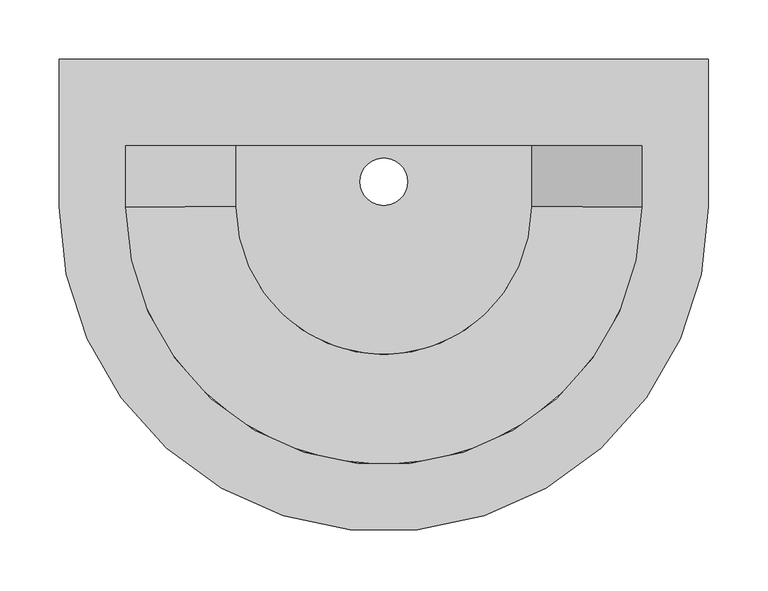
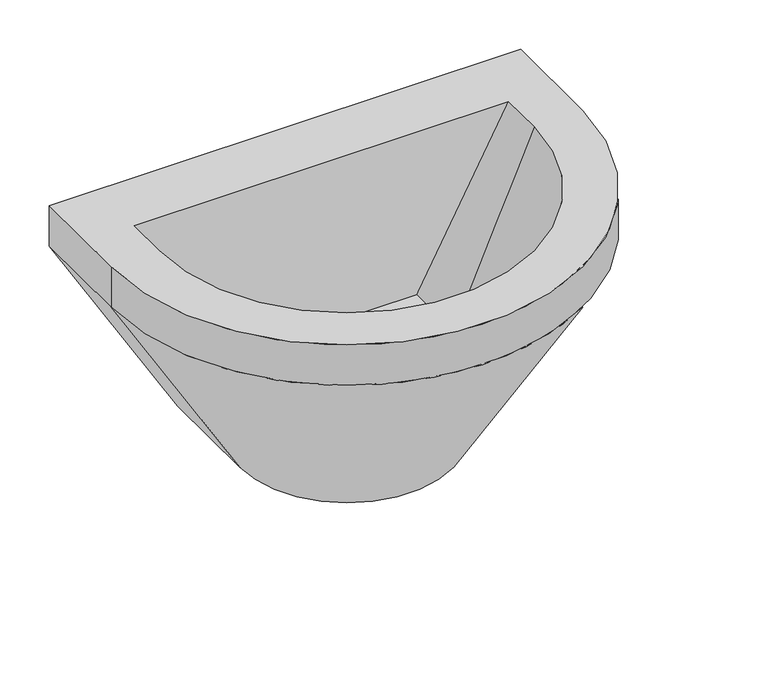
"""IFC4 building model written with IfcOpenShell, lengths in millimetres: flow terminal geometry, BIMHealth-Wash_basin_Doc_M-LOD2A-v1 : BIMHealth-Wash_basin_Doc_M-LOD2A-v1."""

from ifc_helpers import new_model, si_unit, frame, origin, place, context, project, spatial, polyline, circle_curve, source, transform, mapped, element, save
from ifc_brep_helpers import plane_surface, cylinder_surface, revolved_surface, advanced_brep


def flow_terminal_30861e1c(model_context):
    return source(origin(), model_context, "Body", "AdvancedBrep", [
        advanced_brep(
        [(550.0, -125.0, 300.0), (550.0, 0.0, 300.0), (0.0, 0.0, 300.0), (0.0, -125.0, 300.0), (493.4285972, -125.0, 300.0), (56.5714028, -125.0, 300.0), (56.5714028, -73.3571493, 300.0), (493.4285972, -73.3571493, 300.0), (550.0, -125.0, 250.0), (550.0, 0.0, 250.0), (400.0, 0.0, 0.0), (150.0, 0.0, 0.0), (0.0, 0.0, 250.0), (0.0, -125.0, 250.0), (150.0, -125.0, 80.3895226), (400.0, -125.0, 80.3895226), (400.0, -50.0, 80.3895226), (150.0, -50.0, 80.3895226), (295.0, -103.75, 80.3895226), (255.0, -103.75, 80.3895226), (150.0, -125.0, 0.0), (400.0, -125.0, 0.0), (255.0, -103.75, 0.0), (295.0, -103.75, 0.0)],
        [
            (0, 1),
            (1, 2),
            (2, 3),
            (3, 0, circle_curve(frame((275.0, -125.0, 300.0), z_axis=(0.0, 0.0, 1.0), x_axis=(-1.0, 0.0, 0.0)), 275.0)),
            (4, 5, circle_curve(frame((275.0, -125.0, 300.0), z_axis=(0.0, 0.0, -1.0), x_axis=(-1.0, 0.0, 0.0)), 218.4285972)),
            (5, 6),
            (6, 7),
            (7, 4),
            (0, 8),
            (8, 9),
            (9, 1),
            (9, 10),
            (10, 11),
            (11, 12),
            (12, 2),
            (12, 13),
            (13, 3),
            (13, 8, circle_curve(frame((275.0, -125.0, 250.0), z_axis=(0.0, 0.0, 1.0), x_axis=(-1.0, 0.0, 0.0)), 275.0)),
            (14, 15, circle_curve(frame((275.0, -125.0, 80.3895226), z_axis=(0.0, 0.0, 1.0), x_axis=(-1.0, 0.0, 0.0)), 125.0)),
            (15, 16),
            (16, 17),
            (17, 14),
            (18, 19, circle_curve(frame((275.0, -103.75, 80.3895226), z_axis=(0.0, 0.0, -1.0), x_axis=(1.0, 0.0, 0.0)), 20.0)),
            (19, 18, circle_curve(frame((275.0, -103.75, 80.3895226), z_axis=(0.0, 0.0, -1.0), x_axis=(1.0, 0.0, 0.0)), 20.0)),
            (14, 5),
            (4, 15),
            (7, 16),
            (17, 6),
            (20, 11),
            (10, 21),
            (21, 20, circle_curve(frame((275.0, -125.0, 0.0), z_axis=(0.0, 0.0, -1.0), x_axis=(-1.0, 0.0, 0.0)), 125.0)),
            (22, 23, circle_curve(frame((275.0, -103.75, 0.0), z_axis=(0.0, 0.0, 1.0), x_axis=(1.0, 0.0, 0.0)), 20.0)),
            (23, 22, circle_curve(frame((275.0, -103.75, 0.0), z_axis=(0.0, 0.0, 1.0), x_axis=(1.0, 0.0, 0.0)), 20.0)),
            (21, 8),
            (13, 20),
            (22, 19),
            (18, 23),
        ],
        [
            plane_surface(frame((550.0, 0.0, 300.0), z_axis=(0.0, 0.0, 1.0), x_axis=(0.0, 1.0, 0.0))),
            plane_surface(frame((550.0, -125.0, 300.0), z_axis=(1.0, 0.0, 0.0), x_axis=(0.0, 0.0, -1.0))),
            plane_surface(frame((550.0, 0.0, 300.0), z_axis=(0.0, 1.0, 0.0), x_axis=(0.0, 0.0, -1.0))),
            plane_surface(frame((0.0, 0.0, 300.0), z_axis=(-1.0, 0.0, 0.0), x_axis=(0.0, 0.0, -1.0))),
            cylinder_surface(frame((275.0, -125.0, 250.0), z_axis=(0.0, 0.0, 1.0), x_axis=(-1.0, 0.0, 0.0)), 275.0),
            plane_surface(frame((275.0, -87.5, 80.3895226), z_axis=(0.0, 0.0, 1.0), x_axis=(0.0, -1.0, 0.0))),
            revolved_surface(polyline([(56.57140279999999, -125.0, 300.0), (149.9999999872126, -125.0, 80.38952259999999)]), (275.0, -125.0, -213.4317538), (0.0, 0.0, 1.0)),
            plane_surface(frame((400.0, -87.5, 80.3895226), z_axis=(-0.9201888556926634, 0.0, 0.3914747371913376), x_axis=(0.0, 1.0, 0.0))),
            plane_surface(frame((150.0, -87.5, 80.3895226), z_axis=(0.9201888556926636, 0.0, 0.3914747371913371), x_axis=(0.0, -1.0, 0.0))),
            plane_surface(frame((275.0, -62.5, 0.0), z_axis=(0.0, 0.0, -1.0), x_axis=(-1.0, 0.0, 0.0))),
            revolved_surface(polyline([(399.9999999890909, -125.0, 0.0), (550.0, -125.0, 250.0)]), (275.0, -125.0, -208.3333333), (0.0, 0.0, 1.0)),
            plane_surface(frame((400.0, -62.5, 0.0), z_axis=(0.8574929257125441, 0.0, -0.5144957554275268), x_axis=(0.0, 1.0, 0.0))),
            plane_surface(frame((150.0, -62.5, 0.0), z_axis=(-0.8574929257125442, 0.0, -0.5144957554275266), x_axis=(0.0, -1.0, 0.0))),
            revolved_surface(polyline([(295.0, -103.75, 80.38952260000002), (295.0, -103.75, 0.0)]), (275.0, -103.75, -130.4390884), (0.0, 0.0, 1.0)),
            plane_surface(frame((275.0, -50.0, 80.3895226), z_axis=(0.0, -0.9943916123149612, -0.10576067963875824), x_axis=(-1.0, 0.0, 0.0))),
        ],
        [
            (0, [[1, 2, 3, 4], [5, 6, 7, 8]]),
            (1, [[-1, 9, 10, 11]]),
            (2, [[-2, -11, 12, 13, 14, 15]]),
            (3, [[-3, -15, 16, 17]]),
            (4, [[-4, -17, 18, -9]]),
            (5, [[19, 20, 21, 22], [23, 24]]),
            (6, [[-19, 25, -5, 26]]),
            (7, [[-20, -26, -8, 27]]),
            (8, [[-22, 28, -6, -25]]),
            (9, [[29, -13, 30, 31], [32, 33]]),
            (10, [[-31, 34, -18, 35]]),
            (11, [[-30, -12, -10, -34]]),
            (12, [[-29, -35, -16, -14]]),
            (13, [[36, -23, 37, -32]]),
            (13, [[-36, -33, -37, -24]]),
            (14, [[-21, -27, -7, -28]]),
        ],
    ),
    ])


if __name__ == "__main__":
    model = new_model("IFC4")
    model_context = context("Model", 3, world=origin())
    ifc_project = project(units=[si_unit("LENGTHUNIT", "METRE", prefix="MILLI")], contexts=[model_context])
    site = spatial("IfcSite", under=ifc_project)
    building = spatial("IfcBuilding", under=site)
    placement = place(None, origin())
    flow_terminal_shape = flow_terminal_30861e1c(model_context)
    element("IfcFlowTerminal", 1, ObjectType="BIMHealth-Wash_basin_Doc_M-LOD2A-v1 : BIMHealth-Wash_basin_Doc_M-LOD2A-v1", at=placement, inside=building, context=model_context, shape_type="MappedRepresentation", body=[
        mapped(flow_terminal_shape, transform((0.0, 0.0, 0.0), x_axis=(1.0, 0.0, 0.0), y_axis=(0.0, 1.0, 0.0), z_axis=(0.0, 0.0, 1.0))),
    ])
    save(model, "model.ifc")
